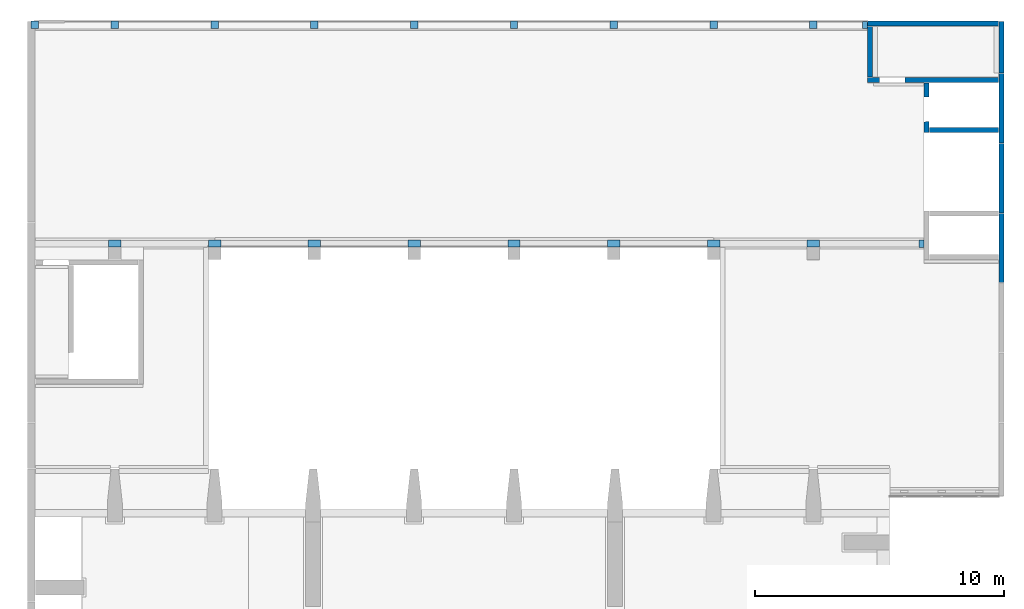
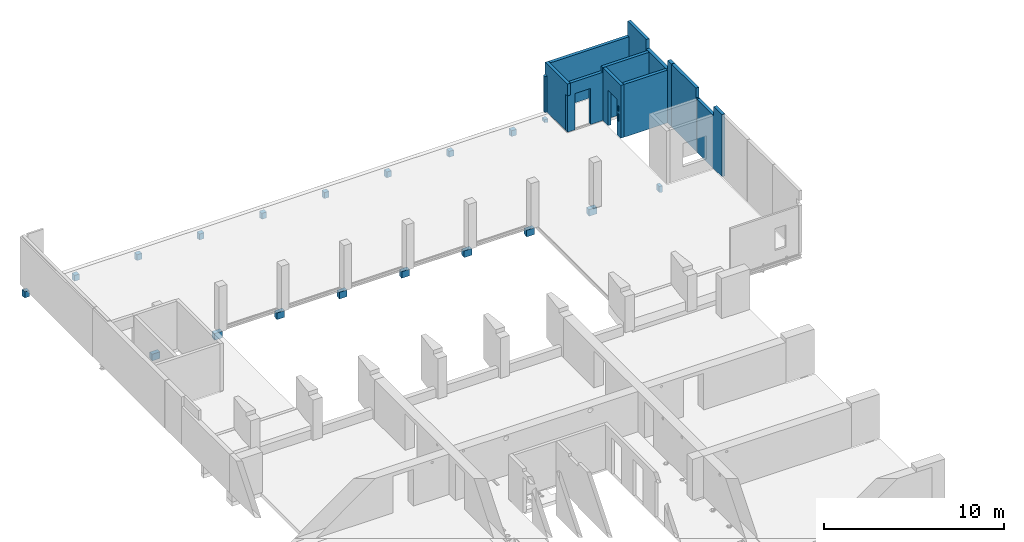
# One storey, part 9 of 10: 28 walls, 13 openings.
"""IFC2X3 building model written with IfcOpenShell, lengths in millimetres."""

from ifc_helpers import new_model, entity, si_unit, converted_unit, derived_unit, direction, frame, frame_2d, origin, origin_2d_with_axis, place, context, subcontext, project, spatial, rectangle, extrude, faceted_brep, material, layer, layer_set, layer_usage, type_object, element, save


model = new_model("IFC2X3")

# Units and contexts
model_context = context("Model", 3, precision=0.01, world=origin(), true_north=direction((6.12303176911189e-17, 1.0)))
body_context = subcontext(model_context, "Body", "Model", "MODEL_VIEW")
ifc_project = project(units=[si_unit("LENGTHUNIT", "METRE", prefix="MILLI"), si_unit("AREAUNIT", "SQUARE_METRE"), si_unit("VOLUMEUNIT", "CUBIC_METRE"), converted_unit("PLANEANGLEUNIT", "DEGREE", entity("IfcRatioMeasure", 0.0174532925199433), si_unit("PLANEANGLEUNIT", "RADIAN"), dimensions=[0, 0, 0, 0, 0, 0, 0]), si_unit("MASSUNIT", "GRAM", prefix="KILO"), derived_unit("MASSDENSITYUNIT", [(si_unit("MASSUNIT", "GRAM", prefix="KILO"), 1), (si_unit("LENGTHUNIT", "METRE"), -3)]), si_unit("TIMEUNIT", "SECOND"), si_unit("FREQUENCYUNIT", "HERTZ"), si_unit("THERMODYNAMICTEMPERATUREUNIT", "DEGREE_CELSIUS"), derived_unit("THERMALTRANSMITTANCEUNIT", [(si_unit("MASSUNIT", "GRAM", prefix="KILO"), 1), (si_unit("THERMODYNAMICTEMPERATUREUNIT", "KELVIN"), -1), (si_unit("TIMEUNIT", "SECOND"), -3)]), derived_unit("VOLUMETRICFLOWRATEUNIT", [(si_unit("LENGTHUNIT", "METRE"), 3), (si_unit("TIMEUNIT", "SECOND"), -1)]), si_unit("ELECTRICCURRENTUNIT", "AMPERE"), si_unit("ELECTRICVOLTAGEUNIT", "VOLT"), si_unit("POWERUNIT", "WATT"), si_unit("FORCEUNIT", "NEWTON", prefix="KILO"), si_unit("ILLUMINANCEUNIT", "LUX"), si_unit("LUMINOUSFLUXUNIT", "LUMEN"), si_unit("LUMINOUSINTENSITYUNIT", "CANDELA"), derived_unit("USERDEFINED", [(si_unit("MASSUNIT", "GRAM", prefix="KILO"), -1), (si_unit("LENGTHUNIT", "METRE"), -2), (si_unit("TIMEUNIT", "SECOND"), 3), (si_unit("LUMINOUSFLUXUNIT", "LUMEN"), 1)]), derived_unit("LINEARVELOCITYUNIT", [(si_unit("LENGTHUNIT", "METRE"), 1), (si_unit("TIMEUNIT", "SECOND"), -1)]), si_unit("PRESSUREUNIT", "PASCAL"), derived_unit("USERDEFINED", [(si_unit("LENGTHUNIT", "METRE"), -2), (si_unit("MASSUNIT", "GRAM", prefix="KILO"), 1), (si_unit("TIMEUNIT", "SECOND"), -2)])], contexts=[model_context])

# Site, building, storey
site_placement = place(None, origin())
site = spatial("IfcSite", under=ifc_project, at=site_placement, Name="Default", CompositionType="ELEMENT")
building_placement = place(site_placement, origin())
building = spatial("IfcBuilding", under=site, at=building_placement, Name="niet gebruiken", CompositionType="ELEMENT")
storey_placement = place(building_placement, frame((0.0, 0.0, 9000.0)))
storey = spatial("IfcBuildingStorey", under=building, at=storey_placement, Name="02 tweede verdieping", CompositionType="ELEMENT", Elevation=9000.00000000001)

# Wall, opening
ifc_material = material(Name="NLRS_f2_beton prefab")
ifc_layer_1 = layer(ifc_material, 200.0)
ifc_layer_set_1 = layer_set([ifc_layer_1], Name="Basic Wall:NLRS_21.21_WA_beton prefab d=200_gen")
ifc_layer_usage_1 = layer_usage(ifc_layer_set_1, "AXIS2", "NEGATIVE", 100.0)
wall_type_1 = type_object("IfcWallType", Name="Basic Wall:NLRS_21.21_WA_beton prefab d=200_gen", PredefinedType="STANDARD", material=ifc_layer_set_1)
wall_1_placement = place(storey_placement, frame((163290.0, 42320.0, 850.0), z_axis=(0.0, 0.0, 1.0), x_axis=(0.0, 1.0, 0.0)))
wall_1 = element("IfcWallStandardCase", 1, at=wall_1_placement, inside=storey, type_object=wall_type_1, material=ifc_layer_usage_1, Name="Basic Wall:NLRS_21.21_WA_beton prefab d=200_gen", ObjectType="Basic Wall:NLRS_21.21_WA_beton prefab d=200_gen", context=body_context, shape_type="SweptSolid", body=[
    extrude(rectangle(XDim=2780.0, YDim=200.000000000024, at=frame_2d((1390.0, 0.0), x_axis=(-1.0, 0.0))), origin(), (0.0, 0.0, 1.0), 4214.99999999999),
])
opening_1_placement = place(wall_1_placement, origin())
element("IfcOpeningElement", 2, at=opening_1_placement, cuts=wall_1, Name="Basic Wall:NLRS_21.21_WA_beton prefab d=200_gen", ObjectType="Opening", context=body_context, shape_type="SweptSolid", body=[
    extrude(rectangle(XDim=635.000000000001, YDim=1870.0, at=frame_2d((-1.08002495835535e-12, 0.0), x_axis=(1.0, 0.0))), frame((1845.0, -100.0, 3897.5), z_axis=(0.0, 1.0, 0.0), x_axis=(0.0, 0.0, -1.0)), (0.0, 0.0, 1.0), 200.000000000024),
])

ifc_layer_usage_2 = layer_usage(ifc_layer_set_1, "AXIS2", "NEGATIVE", 100.0)
wall_2_placement = place(storey_placement, frame((163290.0, 47920.0, 850.0), z_axis=(0.0, 0.0, 1.0), x_axis=(0.0, 1.0, 0.0)))
wall_2 = element("IfcWallStandardCase", 3, at=wall_2_placement, inside=storey, type_object=wall_type_1, material=ifc_layer_usage_2, Name="Basic Wall:NLRS_21.21_WA_beton prefab d=200_gen", ObjectType="Basic Wall:NLRS_21.21_WA_beton prefab d=200_gen", context=body_context, shape_type="SweptSolid", body=[
    extrude(rectangle(XDim=2780.0, YDim=200.000000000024, at=frame_2d((1390.0, 0.0), x_axis=(-1.0, 0.0))), origin(), (0.0, 0.0, 1.0), 4250.0),
])
opening_2_placement = place(wall_2_placement, origin())
element("IfcOpeningElement", 4, at=opening_2_placement, cuts=wall_2, Name="Basic Wall:NLRS_21.21_WA_beton prefab d=200_gen", ObjectType="Opening", context=body_context, shape_type="SweptSolid", body=[
    extrude(rectangle(XDim=669.999999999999, YDim=2389.99999999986, at=origin_2d_with_axis()), frame((1605.0, -100.0, 3915.0), z_axis=(0.0, 1.0, 0.0), x_axis=(0.0, 0.0, -1.0)), (0.0, 0.0, 1.0), 200.000000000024),
])

# Wall
ifc_layer_usage_3 = layer_usage(ifc_layer_set_1, "AXIS2", "NEGATIVE", 100.0)
wall_3_placement = place(storey_placement, frame((163290.0, 50720.0, 850.0), z_axis=(0.0, 0.0, 1.0), x_axis=(0.0, 1.0, 0.0)))
element("IfcWallStandardCase", 5, at=wall_3_placement, inside=storey, type_object=wall_type_1, material=ifc_layer_usage_3, Name="Basic Wall:NLRS_21.21_WA_beton prefab d=200_gen", ObjectType="Basic Wall:NLRS_21.21_WA_beton prefab d=200_gen", context=body_context, shape_type="SweptSolid", body=[
    extrude(rectangle(XDim=2060.00000000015, YDim=200.000000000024, at=frame_2d((1030.00000000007, 0.0), x_axis=(-1.0, 0.0))), origin(), (0.0, 0.0, 1.0), 4214.99999999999),
])

# Wall, opening
ifc_layer_usage_4 = layer_usage(ifc_layer_set_1, "AXIS2", "NEGATIVE", 100.0)
wall_4_placement = place(storey_placement, frame((163290.0, 45120.0, 850.0), z_axis=(0.0, 0.0, 1.0), x_axis=(0.0, 1.0, 0.0)))
wall_4 = element("IfcWallStandardCase", 6, at=wall_4_placement, inside=storey, type_object=wall_type_1, material=ifc_layer_usage_4, Name="Basic Wall:NLRS_21.21_WA_beton prefab d=200_gen", ObjectType="Basic Wall:NLRS_21.21_WA_beton prefab d=200_gen", context=body_context, shape_type="SweptSolid", body=[
    extrude(rectangle(XDim=2780.0, YDim=200.000000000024, at=frame_2d((1390.0, 0.0), x_axis=(-1.0, 0.0))), origin(), (0.0, 0.0, 1.0), 4250.0),
])
opening_3_placement = place(wall_4_placement, origin())
element("IfcOpeningElement", 7, at=opening_3_placement, cuts=wall_4, Name="Basic Wall:NLRS_21.21_WA_beton prefab d=200_gen", ObjectType="Opening", context=body_context, shape_type="SweptSolid", body=[
    extrude(rectangle(XDim=669.999999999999, YDim=100.000000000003, at=frame_2d((0.0, -4.33431068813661e-12), x_axis=(1.0, 0.0))), frame((50.0, -100.0, 3915.0), z_axis=(0.0, 1.0, 0.0), x_axis=(0.0, 0.0, -1.0)), (0.0, 0.0, 1.0), 200.000000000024),
])

# Wall, openings
ifc_layer_2 = layer(ifc_material, 200.0)
ifc_layer_set_2 = layer_set([ifc_layer_2], Name="Basic Wall:NLRS_22.21_WA_beton prefab d=200_gen")
ifc_layer_usage_5 = layer_usage(ifc_layer_set_2, "AXIS2", "NEGATIVE", 100.0)
wall_type_2 = type_object("IfcWallType", Name="Basic Wall:NLRS_22.21_WA_beton prefab d=200_gen", PredefinedType="STANDARD", material=ifc_layer_set_2)
wall_5_placement = place(storey_placement, frame((160290.0, 48350.0, 850.0), z_axis=(0.0, 0.0, 1.0), x_axis=(0.0, 1.0, 0.0)))
wall_5 = element("IfcWallStandardCase", 8, at=wall_5_placement, inside=storey, type_object=wall_type_2, material=ifc_layer_usage_5, Name="Basic Wall:NLRS_22.21_WA_beton prefab d=200_gen", ObjectType="Basic Wall:NLRS_22.21_WA_beton prefab d=200_gen", context=body_context, shape_type="SweptSolid", body=[
    extrude(rectangle(XDim=1980.0, YDim=200.000000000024, at=frame_2d((990.0, 9.02389274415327e-13), x_axis=(-1.0, 0.0))), origin(), (0.0, 0.0, 1.0), 3580.0),
])
opening_4_placement = place(wall_5_placement, frame((418.0, 100.0, -20.0)))
element("IfcOpeningElement", 9, at=opening_4_placement, cuts=wall_5, Name="Basic Wall:NLRS_22.21_WA_beton prefab d=200_gen", ObjectType="Opening", context=body_context, shape_type="Brep", body=[
    faceted_brep([(992.0, -200.0, 2410.0), (12.0, -200.0, 2410.0), (12.0, -200.0, 0.0), (992.0, -200.0, 0.0), (1004.0, 0.0, 2422.0), (1004.0, 0.0, 0.0), (0.0, 0.0, 0.0), (0.0, 0.0, 2422.0)], [[[0, 1, 2, 3]], [[4, 5, 6, 7]], [[4, 7, 1, 0]], [[7, 6, 2, 1]], [[6, 5, 3, 2]], [[5, 4, 0, 3]]]),
])
opening_5_placement = place(wall_5_placement, origin())
element("IfcOpeningElement", 10, at=opening_5_placement, cuts=wall_5, Name="Basic Wall:NLRS_22.21_WA_beton prefab d=200_gen", ObjectType="Opening", context=body_context, shape_type="SweptSolid", body=[
    extrude(rectangle(XDim=370.000000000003, YDim=100.000000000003, at=frame_2d((-8.66506866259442e-12, 0.0), x_axis=(0.0, 1.0))), frame((250.0, -100.0, 1885.0), z_axis=(0.0, 1.0, 0.0), x_axis=(1.0, 0.0, 0.0)), (0.0, 0.0, 1.0), 200.000000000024),
])
opening_6_placement = place(wall_5_placement, origin())
element("IfcOpeningElement", 11, at=opening_6_placement, cuts=wall_5, Name="Basic Wall:NLRS_22.21_WA_beton prefab d=200_gen", ObjectType="Opening", context=body_context, shape_type="SweptSolid", body=[
    extrude(rectangle(XDim=505.000000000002, YDim=75.0000000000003, at=frame_2d((0.0, 0.0), x_axis=(0.0, 1.0))), frame((250.0, -100.0, 1252.50000000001), z_axis=(0.0, 1.0, 0.0), x_axis=(1.0, 0.0, 0.0)), (0.0, 0.0, 1.0), 200.000000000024),
])

# Wall
ifc_layer_usage_6 = layer_usage(ifc_layer_set_2, "AXIS2", "NEGATIVE", 100.0)
wall_6_placement = place(storey_placement, frame((160410.0, 48450.0, 850.0)))
element("IfcWallStandardCase", 12, at=wall_6_placement, inside=storey, type_object=wall_type_2, material=ifc_layer_usage_6, Name="Basic Wall:NLRS_22.21_WA_beton prefab d=200_gen", ObjectType="Basic Wall:NLRS_22.21_WA_beton prefab d=200_gen", context=body_context, shape_type="SweptSolid", body=[
    extrude(rectangle(XDim=2759.99999999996, YDim=200.000000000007, at=frame_2d((1379.99999999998, -2.27373675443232e-13), x_axis=(-1.0, 0.0))), origin(), (0.0, 0.0, 1.0), 3580.0),
])

# Wall, openings
ifc_layer_usage_7 = layer_usage(ifc_layer_set_2, "AXIS2", "NEGATIVE", 100.0)
wall_7_placement = place(storey_placement, frame((157920.0, 50450.0, 850.0)))
wall_7 = element("IfcWallStandardCase", 13, at=wall_7_placement, inside=storey, type_object=wall_type_2, material=ifc_layer_usage_7, Name="Basic Wall:NLRS_22.21_WA_beton prefab d=200_gen", ObjectType="Basic Wall:NLRS_22.21_WA_beton prefab d=200_gen", context=body_context, shape_type="SweptSolid", body=[
    extrude(rectangle(XDim=5249.99999999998, YDim=200.000000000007, at=frame_2d((2624.99999999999, -8.59756710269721e-13), x_axis=(-1.0, 0.0))), origin(), (0.0, 0.0, 1.0), 3580.00000000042),
])
opening_7_placement = place(wall_7_placement, origin())
element("IfcOpeningElement", 14, at=opening_7_placement, cuts=wall_7, Name="Basic Wall:NLRS_22.21_WA_beton prefab d=200_gen", ObjectType="Opening", context=body_context, shape_type="SweptSolid", body=[
    extrude(rectangle(XDim=2450.0, YDim=1016.00000000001, at=frame_2d((1.13686837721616e-12, 0.0), x_axis=(1.0, 0.0))), frame((989.0, -100.0, 1225.0), z_axis=(0.0, 1.0, 0.0), x_axis=(0.0, 0.0, -1.0)), (0.0, 0.0, 1.0), 200.000000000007),
])
opening_8_placement = place(wall_7_placement, origin())
element("IfcOpeningElement", 15, at=opening_8_placement, cuts=wall_7, Name="Basic Wall:NLRS_22.21_WA_beton prefab d=200_gen", ObjectType="Opening", context=body_context, shape_type="SweptSolid", body=[
    extrude(rectangle(XDim=820.0, YDim=219.999999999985, at=frame_2d((0.0, 1.73301373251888e-11), x_axis=(1.0, 0.0))), frame((110.0, -100.0, 2850.0), z_axis=(0.0, 1.0, 0.0), x_axis=(0.0, 0.0, -1.0)), (0.0, 0.0, 1.0), 200.000000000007),
])
opening_9_placement = place(wall_7_placement, frame((469.0, -100.0, 0.0)))
element("IfcOpeningElement", 16, at=opening_9_placement, cuts=wall_7, Name="Basic Wall:NLRS_22.21_WA_beton prefab d=200_gen", ObjectType="Opening", context=body_context, shape_type="Brep", body=[
    faceted_brep([(12.0, 0.0, 2450.0), (12.0, 0.0, 0.0), (1028.0, 0.0, 0.0), (1028.0, 0.0, 2450.0), (0.0, 200.0, 2462.0), (1040.0, 200.0, 2462.0), (1040.0, 200.0, 0.0), (0.0, 200.0, 0.0)], [[[0, 1, 2, 3]], [[4, 5, 6, 7]], [[4, 0, 3, 5]], [[5, 3, 2, 6]], [[6, 2, 1, 7]], [[7, 1, 0, 4]]]),
])
opening_10_placement = place(wall_7_placement, origin())
element("IfcOpeningElement", 17, at=opening_10_placement, cuts=wall_7, Name="Basic Wall:NLRS_22.21_WA_beton prefab d=200_gen", ObjectType="Opening", context=body_context, shape_type="SweptSolid", body=[
    extrude(rectangle(XDim=320.000000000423, YDim=2270.0, at=frame_2d((0.0, 1.08002495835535e-12), x_axis=(0.0, 1.0))), frame((1135.0, 100.0, 3420.0), z_axis=(0.0, -1.0, 0.0), x_axis=(-1.0, 0.0, 0.0)), (0.0, 0.0, 1.0), 200.0),
])

# Wall, opening
ifc_layer_usage_8 = layer_usage(ifc_layer_set_2, "AXIS2", "NEGATIVE", 100.0)
wall_8_placement = place(storey_placement, frame((157800.0, 52700.0, 850.0)))
wall_8 = element("IfcWallStandardCase", 18, at=wall_8_placement, inside=storey, type_object=wall_type_2, material=ifc_layer_usage_8, Name="Basic Wall:NLRS_22.21_WA_beton prefab d=200_gen", ObjectType="Basic Wall:NLRS_22.21_WA_beton prefab d=200_gen", context=body_context, shape_type="SweptSolid", body=[
    extrude(rectangle(XDim=5370.00000000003, YDim=200.000000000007, at=frame_2d((2685.00000000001, 0.0), x_axis=(-1.0, 0.0))), origin(), (0.0, 0.0, 1.0), 3260.0),
])
opening_11_placement = place(wall_8_placement, origin())
element("IfcOpeningElement", 19, at=opening_11_placement, cuts=wall_8, Name="Basic Wall:NLRS_22.21_WA_beton prefab d=200_gen", ObjectType="Opening", context=body_context, shape_type="SweptSolid", body=[
    extrude(rectangle(XDim=820.0, YDim=339.999999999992, at=origin_2d_with_axis()), frame((170.0, -100.0, 2850.0), z_axis=(0.0, 1.0, 0.0), x_axis=(0.0, 0.0, -1.0)), (0.0, 0.0, 1.0), 200.000000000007),
])

# Wall, openings
ifc_layer_usage_9 = layer_usage(ifc_layer_set_2, "AXIS2", "NEGATIVE", 100.0)
wall_9_placement = place(storey_placement, frame((158020.0, 50350.0, 850.0), z_axis=(0.0, 0.0, 1.0), x_axis=(0.0, 1.0, 0.0)))
wall_9 = element("IfcWallStandardCase", 20, at=wall_9_placement, inside=storey, type_object=wall_type_2, material=ifc_layer_usage_9, Name="Basic Wall:NLRS_22.21_WA_beton prefab d=200_gen", ObjectType="Basic Wall:NLRS_22.21_WA_beton prefab d=200_gen", context=body_context, shape_type="SweptSolid", body=[
    extrude(rectangle(XDim=2450.0, YDim=200.000000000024, at=frame_2d((1225.0, 0.0), x_axis=(-1.0, 0.0))), origin(), (0.0, 0.0, 1.0), 3260.0),
])
opening_12_placement = place(wall_9_placement, origin())
element("IfcOpeningElement", 21, at=opening_12_placement, cuts=wall_9, Name="Basic Wall:NLRS_22.21_WA_beton prefab d=200_gen", ObjectType="Opening", context=body_context, shape_type="SweptSolid", body=[
    extrude(rectangle(XDim=2460.0, YDim=220.000000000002, at=origin_2d_with_axis()), frame((110.0, -100.0, 1230.0), z_axis=(0.0, 1.0, 0.0), x_axis=(0.0, 0.0, -1.0)), (0.0, 0.0, 1.0), 200.000000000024),
])
opening_13_placement = place(wall_9_placement, origin())
element("IfcOpeningElement", 22, at=opening_13_placement, cuts=wall_9, Name="Basic Wall:NLRS_22.21_WA_beton prefab d=200_gen", ObjectType="Opening", context=body_context, shape_type="SweptSolid", body=[
    extrude(rectangle(XDim=2460.0, YDim=220.000000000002, at=origin_2d_with_axis()), frame((2340.0, -100.0, 1230.0), z_axis=(0.0, 1.0, 0.0), x_axis=(0.0, 0.0, -1.0)), (0.0, 0.0, 1.0), 200.000000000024),
])

# Walls
wall_type_3 = type_object("IfcWallType", Name="NLRS_21.21_SF_WPB_oplegnok prefabbeton_gen:450x275 met afschuining 15gr", PredefinedType="NOTDEFINED", material=ifc_material)
for number, where, name in (
    (23, (147500.0, 43750.0, -2.0), "NLRS_21.21_SF_WPB_oplegnok prefabbeton_gen:450x275 met afschuining 15gr"),
    (24, (143500.0, 43750.0, -2.0), "NLRS_21.21_SF_WPB_oplegnok prefabbeton_gen:450x275 met afschuining 15gr"),
    (25, (139500.0, 43750.0, -2.0), "NLRS_21.21_SF_WPB_oplegnok prefabbeton_gen:450x275 met afschuining 15gr"),
    (26, (135500.0, 43750.0, -2.0), "NLRS_21.21_SF_WPB_oplegnok prefabbeton_gen:450x275 met afschuining 15gr"),
    (27, (131500.0, 43750.0, -2.0), "NLRS_21.21_SF_WPB_oplegnok prefabbeton_gen:450x275 met afschuining 15gr"),
    (28, (151500.0, 43750.0, -2.0), "NLRS_21.21_SF_WPB_oplegnok prefabbeton_gen:450x275 met afschuining 15gr"),
    (29, (155500.0, 43750.0, -2.0), "NLRS_21.21_SF_WPB_oplegnok prefabbeton_gen:450x275 met afschuining 15gr"),
    (30, (127500.0, 43750.0, -2.0), "NLRS_21.21_SF_WPB_oplegnok prefabbeton_gen:450x275 met afschuining 15gr"),
):
    element("IfcWall", number, at=place(storey_placement, frame(where)), inside=storey, type_object=wall_type_3, material=ifc_material, Name=name, ObjectType="NLRS_21.21_SF_WPB_oplegnok prefabbeton_gen:450x275 met afschuining 15gr", context=body_context, shape_type="Brep", body=[
        faceted_brep([(0.0, 0.0, 450.0), (0.0, 275.0, 450.0), (0.0, 275.0, 48.4899196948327), (0.0, 0.0, 0.0), (500.0, 0.0, 450.0), (500.0, 0.0, 0.0), (500.0, 275.0, 48.4899196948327), (500.0, 275.0, 450.0)], [[[0, 1, 2, 3]], [[4, 5, 6, 7]], [[3, 5, 4, 0]], [[1, 7, 6, 2]], [[0, 4, 7, 1]], [[2, 6, 5, 3]]]),
    ])
wall_type_4 = type_object("IfcWallType", Name="NLRS_21.21_SF_WPB_oplegnok prefabbeton_gen:450x200 met afschuining 15gr", PredefinedType="NOTDEFINED", material=ifc_material)
wall_10_placement = place(storey_placement, frame((159990.0, 43740.0, -2.0), z_axis=(0.0, 0.0, 1.0), x_axis=(0.0, 1.0, 0.0)))
element("IfcWall", 31, at=wall_10_placement, inside=storey, type_object=wall_type_4, material=ifc_material, Name="NLRS_21.21_SF_WPB_oplegnok prefabbeton_gen:450x200 met afschuining 15gr", ObjectType="NLRS_21.21_SF_WPB_oplegnok prefabbeton_gen:450x200 met afschuining 15gr", context=body_context, shape_type="Brep", body=[
    faceted_brep([(0.0, -200.0, 450.0), (0.0, 0.0, 450.0), (0.0, 0.0, 49.8656005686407), (0.0, -200.0, 0.0), (300.0, -200.0, 450.0), (300.0, -200.0, 0.0), (300.0, 0.0, 49.8656005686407), (300.0, 0.0, 450.0)], [[[0, 1, 2, 3]], [[4, 5, 6, 7]], [[3, 5, 4, 0]], [[1, 7, 6, 2]], [[0, 4, 7, 1]], [[2, 6, 5, 3]]]),
])
wall_type_5 = type_object("IfcWallType", Name="NLRS_21.21_SF_WPB_oplegnok prefabbeton_gen:450x290 met afschuining 15gr", PredefinedType="NOTDEFINED", material=ifc_material)
for number, where, name in (
    (32, (127600.0, 52510.0, -2.0), "NLRS_21.21_SF_WPB_oplegnok prefabbeton_gen:450x290 met afschuining 15gr"),
    (33, (131600.0, 52510.0, -2.0), "NLRS_21.21_SF_WPB_oplegnok prefabbeton_gen:450x290 met afschuining 15gr"),
    (34, (135600.0, 52510.0, -2.0), "NLRS_21.21_SF_WPB_oplegnok prefabbeton_gen:450x290 met afschuining 15gr"),
    (35, (139600.0, 52510.0, -2.0), "NLRS_21.21_SF_WPB_oplegnok prefabbeton_gen:450x290 met afschuining 15gr"),
    (36, (143600.0, 52510.0, -2.0), "NLRS_21.21_SF_WPB_oplegnok prefabbeton_gen:450x290 met afschuining 15gr"),
    (37, (147600.0, 52510.0, -2.0), "NLRS_21.21_SF_WPB_oplegnok prefabbeton_gen:450x290 met afschuining 15gr"),
    (38, (151600.0, 52510.0, -2.0), "NLRS_21.21_SF_WPB_oplegnok prefabbeton_gen:450x290 met afschuining 15gr"),
    (39, (155600.0, 52510.0, -2.0), "NLRS_21.21_SF_WPB_oplegnok prefabbeton_gen:450x290 met afschuining 15gr"),
):
    element("IfcWall", number, at=place(storey_placement, frame(where)), inside=storey, type_object=wall_type_5, material=ifc_material, Name=name, ObjectType="NLRS_21.21_SF_WPB_oplegnok prefabbeton_gen:450x290 met afschuining 15gr", context=body_context, shape_type="Brep", body=[
        faceted_brep([(0.0, 290.0, 450.0), (0.0, 290.0, 0.0), (0.0, 0.0, 51.1348244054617), (0.0, 0.0, 450.0), (300.0, 290.0, 450.0), (300.0, 0.0, 450.0), (300.0, 0.0, 51.1348244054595), (300.0, 290.0, 0.0)], [[[0, 1, 2, 3]], [[4, 5, 6, 7]], [[1, 0, 4, 7]], [[3, 2, 6, 5]], [[0, 3, 5, 4]], [[2, 1, 7, 6]]]),
    ])
wall_type_6 = type_object("IfcWallType", Name="NLRS_21.21_SF_WPB_oplegnok prefabbeton_gen:300x200", PredefinedType="NOTDEFINED", material=ifc_material)
wall_11_placement = place(storey_placement, frame((157720.0, 52515.0, 198.0), z_axis=(0.0, 0.0, 1.0), x_axis=(0.0, 1.0, 0.0)))
element("IfcWall", 40, at=wall_11_placement, inside=storey, type_object=wall_type_6, material=ifc_material, Name="NLRS_21.21_SF_WPB_oplegnok prefabbeton_gen:300x200", ObjectType="NLRS_21.21_SF_WPB_oplegnok prefabbeton_gen:300x200", context=body_context, shape_type="Brep", body=[
    faceted_brep([(275.0, -200.0, 250.0), (275.0, -200.0, 0.0), (275.0, 0.0, 49.8656005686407), (275.0, 0.0, 250.0), (0.0, -200.0, 250.0), (0.0, 0.0, 250.0), (0.0, 0.0, 49.8656005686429), (0.0, -200.0, 0.0)], [[[0, 1, 2, 3]], [[4, 5, 6, 7]], [[1, 0, 4, 7]], [[3, 2, 6, 5]], [[0, 3, 5, 4]], [[2, 1, 7, 6]]]),
])
wall_type_7 = type_object("IfcWallType", Name="NLRS_21.21_SF_WPB_oplegnok prefabbeton_gen:450x290 met afschuining 15gr 2", PredefinedType="NOTDEFINED", material=ifc_material)
wall_12_placement = place(storey_placement, frame((124400.0, 52510.0, -2.0)))
element("IfcWall", 41, at=wall_12_placement, inside=storey, type_object=wall_type_7, material=ifc_material, Name="NLRS_21.21_SF_WPB_oplegnok prefabbeton_gen:450x290 met afschuining 15gr 2", ObjectType="NLRS_21.21_SF_WPB_oplegnok prefabbeton_gen:450x290 met afschuining 15gr 2", context=body_context, shape_type="Brep", body=[
    faceted_brep([(300.0, 290.0, 450.0), (300.0, 0.0, 450.0), (300.0, 0.0, 51.1348244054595), (300.0, 290.0, 0.0), (0.0, 290.0, 0.0), (0.0, 290.0, 450.0), (0.0, 0.0, 450.0), (0.0, 0.0, 51.1348244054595)], [[[0, 1, 2, 3]], [[4, 5, 0, 3]], [[6, 7, 2, 1]], [[5, 6, 1, 0]], [[7, 4, 3, 2]], [[5, 4, 7, 6]]]),
])

save(model, "model.ifc")
